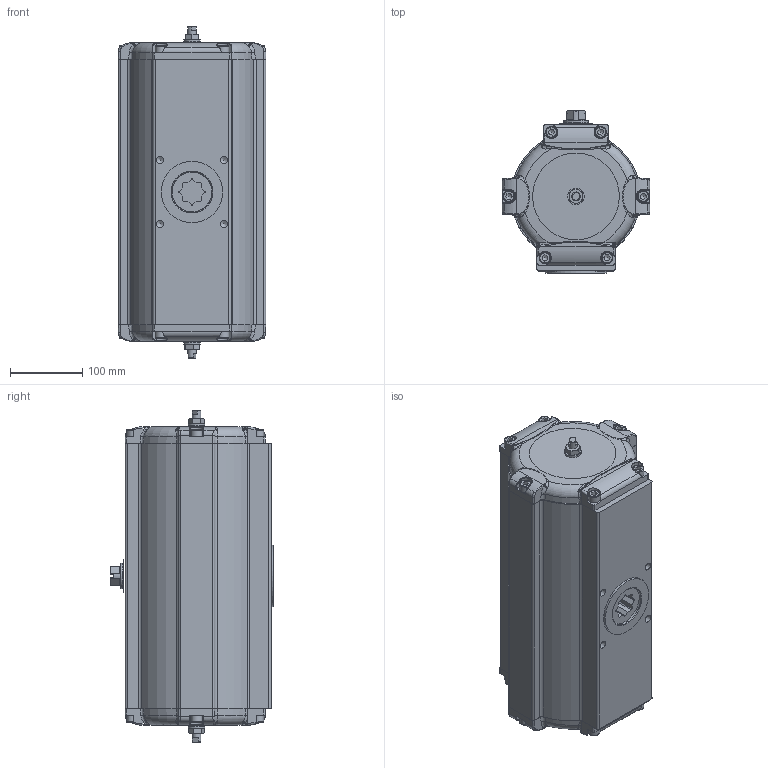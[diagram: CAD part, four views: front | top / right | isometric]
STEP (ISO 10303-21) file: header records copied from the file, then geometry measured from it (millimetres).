
FILE_DESCRIPTION((''),'2;1');
FILE_NAME('C:\Dokumente und Einstellungen\ko-p\Desktop\SAD_33-180°_BR03.stp','2011-02-03T10:22:56',('war'),(''),'Autodesk Inventor 2010','Autodesk Inventor 2010','');
FILE_SCHEMA(('AUTOMOTIVE_DESIGN { 1 0 10303 214 1 1 1 1 }'));
Length unit declared in the file: millimetre
Products named in the file (1): ENG-056322_Konturvereinfachung_1
Bounding box: 204 x 224.8 x 459.4 mm (x, y, z)
Surface area: 401524.7 mm2 (no closed solid volume)
Topology: 0 solids, 29 shells, 556 faces, 1807 edges, 1238 vertices
Faces by surface type: plane 241, bspline 162, cylinder 85, torus 43, cone 25
Full cylindrical faces by diameter (mm): 12 x2, 16 x12, 23 x2, 26 x1, 34.8 x1, 85 x1
Entity records: 30433 total; most frequent: CARTESIAN_POINT 16362, ORIENTED_EDGE 2818, DIRECTION 2421, EDGE_CURVE 1687, VERTEX_POINT 1193, AXIS2_PLACEMENT_3D 924, EDGE_LOOP 690, VECTOR 573
